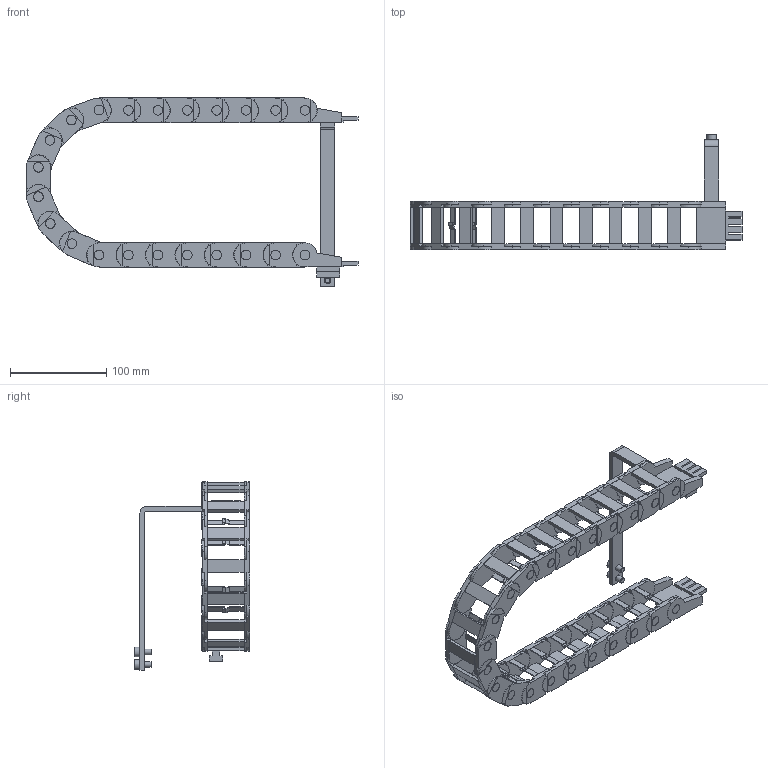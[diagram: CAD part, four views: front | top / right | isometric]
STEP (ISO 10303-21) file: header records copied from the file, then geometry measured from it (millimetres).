
FILE_DESCRIPTION( ( 'STEP AP214' ), '1' );
FILE_NAME( 'U:/Etudes/Top Solid/BIBLIO 3D AVM/STEP/STEP2007LINMOT/8319424.step', '2007-06-07T09:39:49', ( ' ' ), ( ' ' ), 'XStep 1.0', ' ', ' ' );
FILE_SCHEMA( ( 'automotive_design' ) );
Length unit declared in the file: metre
Products named in the file (23): 1; 2; 3; 4; 5; 6; 7; 8; 9; 10; 11; 12; 13; 14; 15; 16; 17; 18; 19; 20; 21; 22; 23
Bounding box: 344.21 x 120 x 195.5 mm (x, y, z)
Volume: 268853.7 mm3; surface area: 199633.2 mm2
Topology: 23 solids, 23 shells, 1762 faces, 4981 edges, 3318 vertices
Faces by surface type: plane 1327, cylinder 433, cone 2
Full cylindrical faces by diameter (mm): 6 x4, 6.5 x2, 10 x2
Entity records: 71581 total; most frequent: CARTESIAN_POINT 10128, ORIENTED_EDGE 9930, DIRECTION 9737, EDGE_CURVE 4965, LINE 3759, VECTOR 3759, VERTEX_POINT 3312, AXIS2_PLACEMENT_3D 2989
